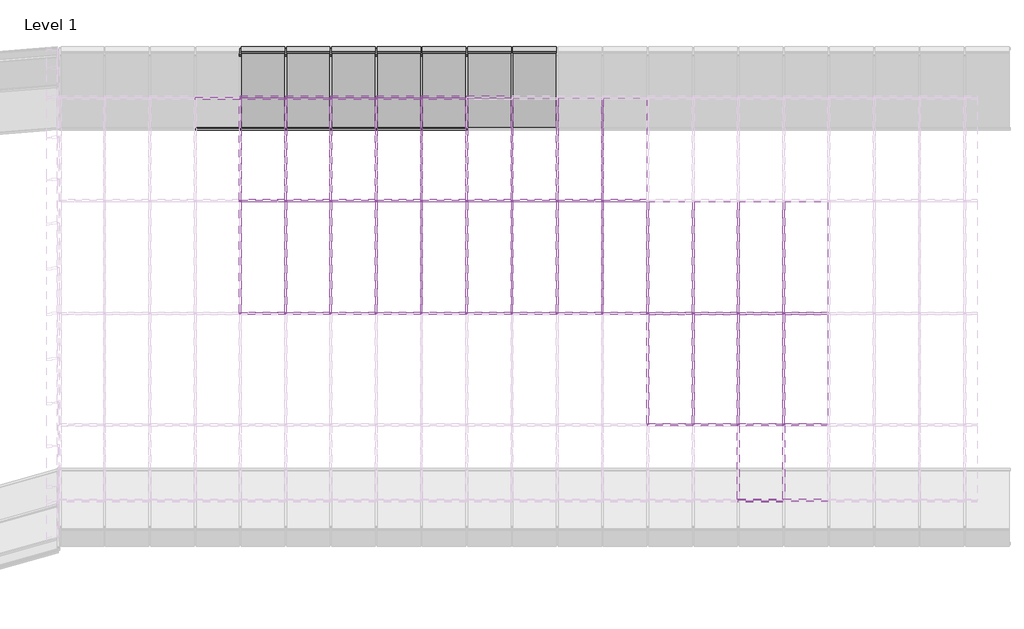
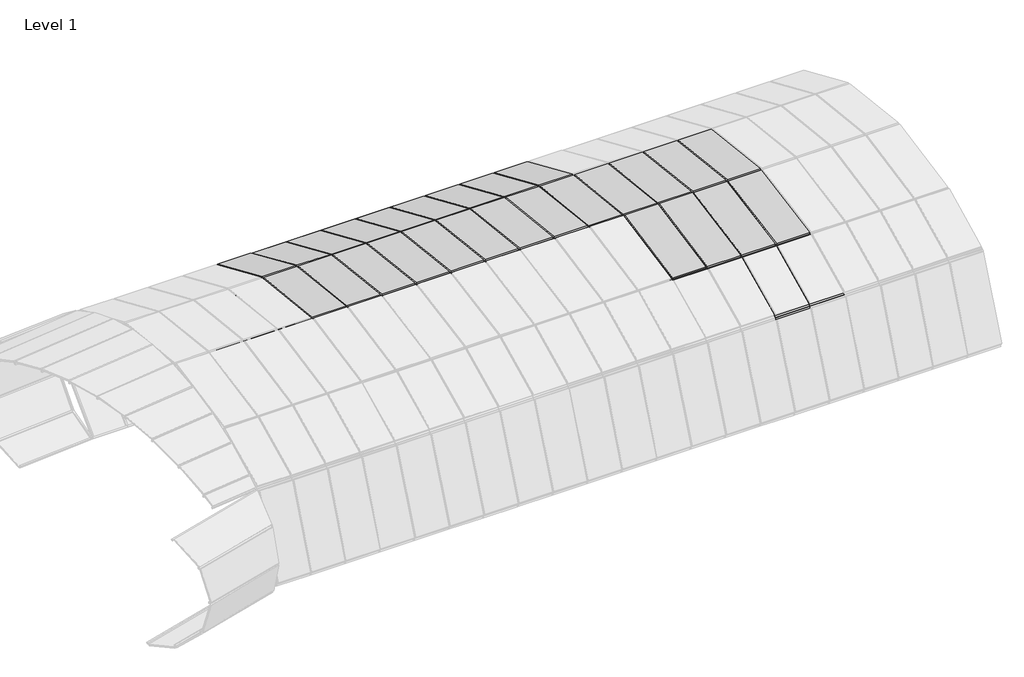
# One storey, part 19 of 23: 81 members, 40 plates.
"""IFC4 building model written with IfcOpenShell, lengths in millimetres."""

from ifc_helpers import new_model, si_unit, origin, place, context, project, spatial, transform, mapped, element, save
from components import member_68981e21, member_3e1f1dd8, member_14e241b9, member_67cfadff, member_309acb9e, member_0f8f75f6, system_panel_glazed_36155e08, system_panel_glazed_4484050c, system_panel_glazed_e96a6bf3

model = new_model("IFC4")

# Units and contexts
model_context = context("Model", 3, world=origin())
ifc_project = project(units=[si_unit("LENGTHUNIT", "METRE", prefix="MILLI")], contexts=[model_context])

# Site, building, storey
site = spatial("IfcSite", under=ifc_project)
building = spatial("IfcBuilding", under=site)
storey = spatial("IfcBuildingStorey", under=building, Name="Level 1", Elevation=0.0)

# Members
placement = place(None, origin())
member_shape = member_68981e21(model_context)
element("IfcMember", 1, ObjectType="Rectangular Mullion : 1\" Square", at=placement, inside=storey, context=model_context, shape_type="MappedRepresentation", body=[
    mapped(member_shape, transform((-768.9499814, 2108.5088854, 2085.6089632), x_axis=(0.0, -0.9009025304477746, -0.4340214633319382), y_axis=(0.0, -0.4340214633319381, 0.9009025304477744), z_axis=(-1.0, 0.0, 0.0))),
])
element("IfcMember", 2, ObjectType="Rectangular Mullion : 1\" Square", at=placement, inside=storey, context=model_context, shape_type="MappedRepresentation", body=[
    mapped(member_shape, transform((-159.3499814, 2108.5088854, 2085.6089632), x_axis=(0.0, -0.9009025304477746, -0.4340214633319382), y_axis=(0.0, -0.4340214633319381, 0.9009025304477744), z_axis=(-1.0, 0.0, 0.0))),
])
element("IfcMember", 3, ObjectType="Rectangular Mullion : 1\" Square", at=placement, inside=storey, context=model_context, shape_type="MappedRepresentation", body=[
    mapped(member_shape, transform((-7474.5499814, 7543.2525753, 2085.6089632), x_axis=(0.0, 0.9167487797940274, -0.39946423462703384), y_axis=(0.0, 0.39946423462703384, 0.9167487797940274), z_axis=(1.0, 0.0, 0.0))),
])
element("IfcMember", 4, ObjectType="Rectangular Mullion : 1\" Square", at=placement, inside=storey, context=model_context, shape_type="MappedRepresentation", body=[
    mapped(member_shape, transform((-6864.9499814, 7543.2525753, 2085.6089632), x_axis=(0.0, 0.9167487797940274, -0.39946423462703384), y_axis=(0.0, 0.39946423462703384, 0.9167487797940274), z_axis=(1.0, 0.0, 0.0))),
])
element("IfcMember", 5, ObjectType="Rectangular Mullion : 1\" Square", at=placement, inside=storey, context=model_context, shape_type="MappedRepresentation", body=[
    mapped(member_shape, transform((-6255.3499814, 7543.2525753, 2085.6089632), x_axis=(0.0, 0.9167487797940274, -0.39946423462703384), y_axis=(0.0, 0.39946423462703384, 0.9167487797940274), z_axis=(1.0, 0.0, 0.0))),
])
element("IfcMember", 6, ObjectType="Rectangular Mullion : 1\" Square", at=placement, inside=storey, context=model_context, shape_type="MappedRepresentation", body=[
    mapped(member_shape, transform((-5645.7499814, 7543.2525753, 2085.6089632), x_axis=(0.0, 0.9167487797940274, -0.39946423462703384), y_axis=(0.0, 0.39946423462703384, 0.9167487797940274), z_axis=(1.0, 0.0, 0.0))),
])
element("IfcMember", 7, ObjectType="Rectangular Mullion : 1\" Square", at=placement, inside=storey, context=model_context, shape_type="MappedRepresentation", body=[
    mapped(member_shape, transform((-5036.1499814, 7543.2525753, 2085.6089632), x_axis=(0.0, 0.9167487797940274, -0.39946423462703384), y_axis=(0.0, 0.39946423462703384, 0.9167487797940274), z_axis=(1.0, 0.0, 0.0))),
])
element("IfcMember", 8, ObjectType="Rectangular Mullion : 1\" Square", at=placement, inside=storey, context=model_context, shape_type="MappedRepresentation", body=[
    mapped(member_shape, transform((-4426.5499814, 7543.2525753, 2085.6089632), x_axis=(0.0, 0.9167487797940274, -0.39946423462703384), y_axis=(0.0, 0.39946423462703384, 0.9167487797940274), z_axis=(1.0, 0.0, 0.0))),
])
element("IfcMember", 9, ObjectType="Rectangular Mullion : 1\" Square", at=placement, inside=storey, context=model_context, shape_type="MappedRepresentation", body=[
    mapped(member_shape, transform((-7474.5499814, 7111.8807303, 0.0), x_axis=(0.0, -0.713412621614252, -0.7007441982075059), y_axis=(0.0, 0.7007441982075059, -0.713412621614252), z_axis=(1.0, 0.0, 0.0))),
])
element("IfcMember", 10, ObjectType="Rectangular Mullion : 1\" Square", at=placement, inside=storey, context=model_context, shape_type="MappedRepresentation", body=[
    mapped(member_shape, transform((-6864.9499814, 7111.8807303, 0.0), x_axis=(0.0, -0.713412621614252, -0.7007441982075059), y_axis=(0.0, 0.7007441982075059, -0.713412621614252), z_axis=(1.0, 0.0, 0.0))),
])
element("IfcMember", 11, ObjectType="Rectangular Mullion : 1\" Square", at=placement, inside=storey, context=model_context, shape_type="MappedRepresentation", body=[
    mapped(member_shape, transform((-6255.3499814, 7111.8807303, 0.0), x_axis=(0.0, -0.713412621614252, -0.7007441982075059), y_axis=(0.0, 0.7007441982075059, -0.713412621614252), z_axis=(1.0, 0.0, 0.0))),
])
element("IfcMember", 12, ObjectType="Rectangular Mullion : 1\" Square", at=placement, inside=storey, context=model_context, shape_type="MappedRepresentation", body=[
    mapped(member_shape, transform((-5645.7499814, 7111.8807303, 0.0), x_axis=(0.0, -0.713412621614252, -0.7007441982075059), y_axis=(0.0, 0.7007441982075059, -0.713412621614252), z_axis=(1.0, 0.0, 0.0))),
])
element("IfcMember", 13, ObjectType="Rectangular Mullion : 1\" Square", at=placement, inside=storey, context=model_context, shape_type="MappedRepresentation", body=[
    mapped(member_shape, transform((-5036.1499814, 7111.8807303, 0.0), x_axis=(0.0, -0.713412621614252, -0.7007441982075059), y_axis=(0.0, 0.7007441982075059, -0.713412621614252), z_axis=(1.0, 0.0, 0.0))),
])
element("IfcMember", 14, ObjectType="Rectangular Mullion : 1\" Square", at=placement, inside=storey, context=model_context, shape_type="MappedRepresentation", body=[
    mapped(member_shape, transform((-4426.5499814, 7111.8807303, 0.0), x_axis=(0.0, -0.713412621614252, -0.7007441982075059), y_axis=(0.0, 0.7007441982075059, -0.713412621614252), z_axis=(1.0, 0.0, 0.0))),
])
member_2_shape = member_3e1f1dd8(model_context)
element("IfcMember", 15, ObjectType="Rectangular Mullion : 1\" Square", at=placement, inside=storey, context=model_context, shape_type="MappedRepresentation", body=[
    mapped(member_2_shape, transform((-7474.5499814, 4631.6132499, 2864.1651971), x_axis=(0.0, -0.9992773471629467, -0.038010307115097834), y_axis=(0.0, -0.038010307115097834, 0.9992773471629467), z_axis=(-1.0, 0.0, 0.0))),
])
element("IfcMember", 16, ObjectType="Rectangular Mullion : 1\" Square", at=placement, inside=storey, context=model_context, shape_type="MappedRepresentation", body=[
    mapped(member_2_shape, transform((-6864.9499814, 4631.6132499, 2864.1651971), x_axis=(0.0, -0.9992773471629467, -0.038010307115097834), y_axis=(0.0, -0.038010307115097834, 0.9992773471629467), z_axis=(-1.0, 0.0, 0.0))),
])
element("IfcMember", 17, ObjectType="Rectangular Mullion : 1\" Square", at=placement, inside=storey, context=model_context, shape_type="MappedRepresentation", body=[
    mapped(member_2_shape, transform((-6255.3499814, 4631.6132499, 2864.1651971), x_axis=(0.0, -0.9992773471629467, -0.038010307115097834), y_axis=(0.0, -0.038010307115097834, 0.9992773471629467), z_axis=(-1.0, 0.0, 0.0))),
])
element("IfcMember", 18, ObjectType="Rectangular Mullion : 1\" Square", at=placement, inside=storey, context=model_context, shape_type="MappedRepresentation", body=[
    mapped(member_2_shape, transform((-5645.7499814, 4631.6132499, 2864.1651971), x_axis=(0.0, -0.9992773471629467, -0.038010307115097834), y_axis=(0.0, -0.038010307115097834, 0.9992773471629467), z_axis=(-1.0, 0.0, 0.0))),
])
element("IfcMember", 19, ObjectType="Rectangular Mullion : 1\" Square", at=placement, inside=storey, context=model_context, shape_type="MappedRepresentation", body=[
    mapped(member_2_shape, transform((-5036.1499814, 4631.6132499, 2864.1651971), x_axis=(0.0, -0.9992773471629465, -0.038010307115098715), y_axis=(0.0, -0.038010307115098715, 0.9992773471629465), z_axis=(-1.0, 0.0, 0.0))),
])
element("IfcMember", 20, ObjectType="Rectangular Mullion : 1\" Square", at=placement, inside=storey, context=model_context, shape_type="MappedRepresentation", body=[
    mapped(member_2_shape, transform((-4426.5499814, 4631.6132499, 2864.1651971), x_axis=(0.0, -0.9992773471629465, -0.038010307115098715), y_axis=(0.0, -0.038010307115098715, 0.9992773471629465), z_axis=(-1.0, 0.0, 0.0))),
])
element("IfcMember", 21, ObjectType="Rectangular Mullion : 1\" Square", at=placement, inside=storey, context=model_context, shape_type="MappedRepresentation", body=[
    mapped(member_2_shape, transform((-3816.9499814, 4631.6132499, 2864.1651971), x_axis=(0.0, -0.9992773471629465, -0.038010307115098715), y_axis=(0.0, -0.038010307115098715, 0.9992773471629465), z_axis=(-1.0, 0.0, 0.0))),
])
element("IfcMember", 22, ObjectType="Rectangular Mullion : 1\" Square", at=placement, inside=storey, context=model_context, shape_type="MappedRepresentation", body=[
    mapped(member_2_shape, transform((-3207.3499814, 4631.6132499, 2864.1651971), x_axis=(0.0, -0.9992773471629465, -0.038010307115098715), y_axis=(0.0, -0.038010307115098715, 0.9992773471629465), z_axis=(-1.0, 0.0, 0.0))),
])
element("IfcMember", 23, ObjectType="Rectangular Mullion : 1\" Square", at=placement, inside=storey, context=model_context, shape_type="MappedRepresentation", body=[
    mapped(member_2_shape, transform((-2597.7499814, 4631.6132499, 2864.1651971), x_axis=(0.0, -0.9992773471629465, -0.038010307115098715), y_axis=(0.0, -0.038010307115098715, 0.9992773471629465), z_axis=(-1.0, 0.0, 0.0))),
])
element("IfcMember", 24, ObjectType="Rectangular Mullion : 1\" Square", at=placement, inside=storey, context=model_context, shape_type="MappedRepresentation", body=[
    mapped(member_2_shape, transform((-1988.1499814, 4631.6132499, 2864.1651971), x_axis=(0.0, -0.9992773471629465, -0.038010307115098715), y_axis=(0.0, -0.038010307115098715, 0.9992773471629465), z_axis=(-1.0, 0.0, 0.0))),
])
element("IfcMember", 25, ObjectType="Rectangular Mullion : 1\" Square", at=placement, inside=storey, context=model_context, shape_type="MappedRepresentation", body=[
    mapped(member_2_shape, transform((-1378.5499814, 4631.6132499, 2864.1651971), x_axis=(0.0, -0.9992773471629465, -0.038010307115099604), y_axis=(0.0, -0.038010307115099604, 0.9992773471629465), z_axis=(-1.0, 0.0, 0.0))),
])
element("IfcMember", 26, ObjectType="Rectangular Mullion : 1\" Square", at=placement, inside=storey, context=model_context, shape_type="MappedRepresentation", body=[
    mapped(member_2_shape, transform((-768.9499814, 4631.6132499, 2864.1651971), x_axis=(0.0, -0.9992773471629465, -0.038010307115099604), y_axis=(0.0, -0.038010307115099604, 0.9992773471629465), z_axis=(-1.0, 0.0, 0.0))),
])
element("IfcMember", 27, ObjectType="Rectangular Mullion : 1\" Square", at=placement, inside=storey, context=model_context, shape_type="MappedRepresentation", body=[
    mapped(member_2_shape, transform((-159.3499814, 4631.6132499, 2864.1651971), x_axis=(0.0, -0.9992773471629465, -0.038010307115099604), y_axis=(0.0, -0.038010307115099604, 0.9992773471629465), z_axis=(-1.0, 0.0, 0.0))),
])
element("IfcMember", 28, ObjectType="Rectangular Mullion : 1\" Square", at=placement, inside=storey, context=model_context, shape_type="MappedRepresentation", body=[
    mapped(member_2_shape, transform((-1988.1499814, 3134.3722562, 2579.8319299), x_axis=(0.0, -0.9436447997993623, -0.3309599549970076), y_axis=(0.0, -0.3309599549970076, 0.9436447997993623), z_axis=(-1.0, 0.0, 0.0))),
])
element("IfcMember", 29, ObjectType="Rectangular Mullion : 1\" Square", at=placement, inside=storey, context=model_context, shape_type="MappedRepresentation", body=[
    mapped(member_2_shape, transform((-1378.5499814, 3134.3722562, 2579.8319299), x_axis=(0.0, -0.9436447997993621, -0.3309599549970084), y_axis=(0.0, -0.3309599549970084, 0.9436447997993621), z_axis=(-1.0, 0.0, 0.0))),
])
element("IfcMember", 30, ObjectType="Rectangular Mullion : 1\" Square", at=placement, inside=storey, context=model_context, shape_type="MappedRepresentation", body=[
    mapped(member_2_shape, transform((-768.9499814, 3134.3722562, 2579.8319299), x_axis=(0.0, -0.9436447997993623, -0.3309599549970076), y_axis=(0.0, -0.3309599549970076, 0.9436447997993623), z_axis=(-1.0, 0.0, 0.0))),
])
element("IfcMember", 31, ObjectType="Rectangular Mullion : 1\" Square", at=placement, inside=storey, context=model_context, shape_type="MappedRepresentation", body=[
    mapped(member_2_shape, transform((-159.3499814, 3134.3722562, 2579.8319299), x_axis=(0.0, -0.9436447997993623, -0.3309599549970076), y_axis=(0.0, -0.3309599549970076, 0.9436447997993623), z_axis=(-1.0, 0.0, 0.0))),
])
element("IfcMember", 32, ObjectType="Rectangular Mullion : 1\" Square", at=placement, inside=storey, context=model_context, shape_type="MappedRepresentation", body=[
    mapped(member_shape, transform((-159.3499814, 2108.5088854, 2085.6089632), x_axis=(0.0, 0.37689609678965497, 0.9262555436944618), y_axis=(0.0, -0.9262555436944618, 0.37689609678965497), z_axis=(1.0, 0.0, 0.0))),
])
element("IfcMember", 33, ObjectType="Rectangular Mullion : 1\" Square", at=placement, inside=storey, context=model_context, shape_type="MappedRepresentation", body=[
    mapped(member_shape, transform((-7474.5499814, 7543.2525753, 2085.6089632), x_axis=(0.0, -0.5417212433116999, 0.8405582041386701), y_axis=(0.0, 0.8405582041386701, 0.5417212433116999), z_axis=(-1.0, 0.0, 0.0))),
])
element("IfcMember", 34, ObjectType="Rectangular Mullion : 1\" Square", at=placement, inside=storey, context=model_context, shape_type="MappedRepresentation", body=[
    mapped(member_shape, transform((-6864.9499814, 7543.2525753, 2085.6089632), x_axis=(0.0, -0.5417212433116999, 0.8405582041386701), y_axis=(0.0, 0.8405582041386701, 0.5417212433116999), z_axis=(-1.0, 0.0, 0.0))),
])
element("IfcMember", 35, ObjectType="Rectangular Mullion : 1\" Square", at=placement, inside=storey, context=model_context, shape_type="MappedRepresentation", body=[
    mapped(member_shape, transform((-6255.3499814, 7543.2525753, 2085.6089632), x_axis=(0.0, -0.5417212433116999, 0.8405582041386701), y_axis=(0.0, 0.8405582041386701, 0.5417212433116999), z_axis=(-1.0, 0.0, 0.0))),
])
element("IfcMember", 36, ObjectType="Rectangular Mullion : 1\" Square", at=placement, inside=storey, context=model_context, shape_type="MappedRepresentation", body=[
    mapped(member_shape, transform((-5645.7499814, 7543.2525753, 2085.6089632), x_axis=(0.0, -0.5417212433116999, 0.8405582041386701), y_axis=(0.0, 0.8405582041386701, 0.5417212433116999), z_axis=(-1.0, 0.0, 0.0))),
])
element("IfcMember", 37, ObjectType="Rectangular Mullion : 1\" Square", at=placement, inside=storey, context=model_context, shape_type="MappedRepresentation", body=[
    mapped(member_shape, transform((-5036.1499814, 7543.2525753, 2085.6089632), x_axis=(0.0, -0.5417212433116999, 0.8405582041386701), y_axis=(0.0, 0.8405582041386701, 0.5417212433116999), z_axis=(-1.0, 0.0, 0.0))),
])
element("IfcMember", 38, ObjectType="Rectangular Mullion : 1\" Square", at=placement, inside=storey, context=model_context, shape_type="MappedRepresentation", body=[
    mapped(member_shape, transform((-4426.5499814, 7543.2525753, 2085.6089632), x_axis=(0.0, -0.5417212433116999, 0.8405582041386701), y_axis=(0.0, 0.8405582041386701, 0.5417212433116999), z_axis=(-1.0, 0.0, 0.0))),
])
element("IfcMember", 39, ObjectType="Rectangular Mullion : 1\" Square", at=placement, inside=storey, context=model_context, shape_type="MappedRepresentation", body=[
    mapped(member_2_shape, transform((-7474.5499814, 6146.1274349, 2694.3924567), x_axis=(0.0, -0.9660596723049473, 0.25831900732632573), y_axis=(0.0, 0.2583190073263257, 0.966059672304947), z_axis=(-1.0, 0.0, 0.0))),
])
element("IfcMember", 40, ObjectType="Rectangular Mullion : 1\" Square", at=placement, inside=storey, context=model_context, shape_type="MappedRepresentation", body=[
    mapped(member_2_shape, transform((-6864.9499814, 6146.1274349, 2694.3924567), x_axis=(0.0, -0.9660596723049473, 0.25831900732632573), y_axis=(0.0, 0.2583190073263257, 0.966059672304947), z_axis=(-1.0, 0.0, 0.0))),
])
element("IfcMember", 41, ObjectType="Rectangular Mullion : 1\" Square", at=placement, inside=storey, context=model_context, shape_type="MappedRepresentation", body=[
    mapped(member_2_shape, transform((-6255.3499814, 6146.1274349, 2694.3924567), x_axis=(0.0, -0.9660596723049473, 0.25831900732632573), y_axis=(0.0, 0.2583190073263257, 0.966059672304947), z_axis=(-1.0, 0.0, 0.0))),
])
element("IfcMember", 42, ObjectType="Rectangular Mullion : 1\" Square", at=placement, inside=storey, context=model_context, shape_type="MappedRepresentation", body=[
    mapped(member_2_shape, transform((-5645.7499814, 6146.1274349, 2694.3924567), x_axis=(0.0, -0.9660596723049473, 0.25831900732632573), y_axis=(0.0, 0.2583190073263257, 0.966059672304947), z_axis=(-1.0, 0.0, 0.0))),
])
element("IfcMember", 43, ObjectType="Rectangular Mullion : 1\" Square", at=placement, inside=storey, context=model_context, shape_type="MappedRepresentation", body=[
    mapped(member_2_shape, transform((-5036.1499814, 6146.1274349, 2694.3924567), x_axis=(0.0, -0.9660596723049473, 0.25831900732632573), y_axis=(0.0, 0.2583190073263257, 0.966059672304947), z_axis=(-1.0, 0.0, 0.0))),
])
element("IfcMember", 44, ObjectType="Rectangular Mullion : 1\" Square", at=placement, inside=storey, context=model_context, shape_type="MappedRepresentation", body=[
    mapped(member_2_shape, transform((-4426.5499814, 6146.1274349, 2694.3924567), x_axis=(0.0, -0.9660596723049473, 0.25831900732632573), y_axis=(0.0, 0.2583190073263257, 0.966059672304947), z_axis=(-1.0, 0.0, 0.0))),
])
element("IfcMember", 45, ObjectType="Rectangular Mullion : 1\" Square", at=placement, inside=storey, context=model_context, shape_type="MappedRepresentation", body=[
    mapped(member_2_shape, transform((-3816.9499814, 6146.1274349, 2694.3924567), x_axis=(0.0, -0.9660596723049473, 0.25831900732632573), y_axis=(0.0, 0.2583190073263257, 0.966059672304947), z_axis=(-1.0, 0.0, 0.0))),
])
element("IfcMember", 46, ObjectType="Rectangular Mullion : 1\" Square", at=placement, inside=storey, context=model_context, shape_type="MappedRepresentation", body=[
    mapped(member_2_shape, transform((-3207.3499814, 6146.1274349, 2694.3924567), x_axis=(0.0, -0.9660596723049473, 0.25831900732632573), y_axis=(0.0, 0.2583190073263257, 0.966059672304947), z_axis=(-1.0, 0.0, 0.0))),
])
element("IfcMember", 47, ObjectType="Rectangular Mullion : 1\" Square", at=placement, inside=storey, context=model_context, shape_type="MappedRepresentation", body=[
    mapped(member_2_shape, transform((-2597.7499814, 6146.1274349, 2694.3924567), x_axis=(0.0, -0.9660596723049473, 0.25831900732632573), y_axis=(0.0, 0.2583190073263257, 0.966059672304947), z_axis=(-1.0, 0.0, 0.0))),
])
member_3_shape = member_14e241b9(model_context)
element("IfcMember", 48, ObjectType="Rectangular Mullion : 1\" Square", at=placement, inside=storey, context=model_context, shape_type="MappedRepresentation", body=[
    mapped(member_3_shape, transform((-768.9499814, 2131.3918096, 2096.6331083), x_axis=(1.0, 0.0, 0.0), y_axis=(0.0, -0.4340214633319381, 0.9009025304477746), z_axis=(0.0, -0.9009025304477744, -0.434021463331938))),
])
element("IfcMember", 49, ObjectType="Rectangular Mullion : 1\" Square", at=placement, inside=storey, context=model_context, shape_type="MappedRepresentation", body=[
    mapped(member_3_shape, transform((-159.3499814, 2131.3918096, 2096.6331083), x_axis=(1.0, 0.0, 0.0), y_axis=(0.0, -0.4340214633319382, 0.9009025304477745), z_axis=(0.0, -0.9009025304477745, -0.4340214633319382))),
])
member_4_shape = member_67cfadff(model_context)
element("IfcMember", 50, ObjectType="Rectangular Mullion : 1\" Square", at=placement, inside=storey, context=model_context, shape_type="MappedRepresentation", body=[
    mapped(member_4_shape, transform((-5036.1499814, 6157.7701444, 2689.3192609), x_axis=(0.9999999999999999, 0.0, 0.0), y_axis=(0.0, 0.3994642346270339, 0.9167487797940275), z_axis=(0.0, -0.9167487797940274, 0.39946423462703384))),
])
element("IfcMember", 51, ObjectType="Rectangular Mullion : 1\" Square", at=placement, inside=storey, context=model_context, shape_type="MappedRepresentation", body=[
    mapped(member_4_shape, transform((-4426.5499814, 6157.7701444, 2689.3192609), x_axis=(0.9999999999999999, 0.0, 0.0), y_axis=(0.0, 0.3994642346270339, 0.9167487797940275), z_axis=(0.0, -0.9167487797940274, 0.39946423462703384))),
])
element("IfcMember", 52, ObjectType="Rectangular Mullion : 1\" Square", at=placement, inside=storey, context=model_context, shape_type="MappedRepresentation", body=[
    mapped(member_4_shape, transform((-3816.9499814, 6157.7701444, 2689.3192609), x_axis=(0.9999999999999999, 0.0, 0.0), y_axis=(0.0, 0.3994642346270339, 0.9167487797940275), z_axis=(0.0, -0.9167487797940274, 0.39946423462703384))),
])
element("IfcMember", 53, ObjectType="Rectangular Mullion : 1\" Square", at=placement, inside=storey, context=model_context, shape_type="MappedRepresentation", body=[
    mapped(member_4_shape, transform((-3207.3499814, 6157.7701444, 2689.3192609), x_axis=(0.9999999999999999, 0.0, 0.0), y_axis=(0.0, 0.3994642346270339, 0.9167487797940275), z_axis=(0.0, -0.9167487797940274, 0.39946423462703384))),
])
element("IfcMember", 54, ObjectType="Rectangular Mullion : 1\" Square", at=placement, inside=storey, context=model_context, shape_type="MappedRepresentation", body=[
    mapped(member_4_shape, transform((-2597.7499814, 6157.7701444, 2689.3192609), x_axis=(0.9999999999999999, 0.0, 0.0), y_axis=(0.0, 0.3994642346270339, 0.9167487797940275), z_axis=(0.0, -0.9167487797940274, 0.39946423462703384))),
])
element("IfcMember", 55, ObjectType="Rectangular Mullion : 1\" Square", at=placement, inside=storey, context=model_context, shape_type="MappedRepresentation", body=[
    mapped(member_4_shape, transform((-6864.9499814, 6157.7701444, 2689.3192609), x_axis=(0.9999999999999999, 0.0, 0.0), y_axis=(0.0, 0.3994642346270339, 0.9167487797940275), z_axis=(0.0, -0.9167487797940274, 0.39946423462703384))),
])
element("IfcMember", 56, ObjectType="Rectangular Mullion : 1\" Square", at=placement, inside=storey, context=model_context, shape_type="MappedRepresentation", body=[
    mapped(member_4_shape, transform((-6255.3499814, 6157.7701444, 2689.3192609), x_axis=(0.9999999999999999, 0.0, 0.0), y_axis=(0.0, 0.3994642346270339, 0.9167487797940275), z_axis=(0.0, -0.9167487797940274, 0.39946423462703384))),
])
element("IfcMember", 57, ObjectType="Rectangular Mullion : 1\" Square", at=placement, inside=storey, context=model_context, shape_type="MappedRepresentation", body=[
    mapped(member_4_shape, transform((-5645.7499814, 6157.7701444, 2689.3192609), x_axis=(0.9999999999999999, 0.0, 0.0), y_axis=(0.0, 0.3994642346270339, 0.9167487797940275), z_axis=(0.0, -0.9167487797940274, 0.39946423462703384))),
])
element("IfcMember", 58, ObjectType="Rectangular Mullion : 1\" Square", at=placement, inside=storey, context=model_context, shape_type="MappedRepresentation", body=[
    mapped(member_4_shape, transform((-7474.5499814, 6157.7701444, 2689.3192609), x_axis=(0.9999999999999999, 0.0, 0.0), y_axis=(0.0, 0.3994642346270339, 0.9167487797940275), z_axis=(0.0, -0.9167487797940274, 0.39946423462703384))),
])
member_5_shape = member_309acb9e(model_context)
element("IfcMember", 59, ObjectType="Rectangular Mullion : 1\" Square", at=placement, inside=storey, context=model_context, shape_type="MappedRepresentation", body=[
    mapped(member_5_shape, transform((-1988.1499814, 4644.2342014, 2862.7504243), x_axis=(1.0, 0.0, 0.0), y_axis=(0.0, 0.11139943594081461, 0.993775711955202), z_axis=(0.0, -0.9937757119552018, 0.11139943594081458))),
])
element("IfcMember", 60, ObjectType="Rectangular Mullion : 1\" Square", at=placement, inside=storey, context=model_context, shape_type="MappedRepresentation", body=[
    mapped(member_5_shape, transform((-1378.5499814, 4644.2342014, 2862.7504243), x_axis=(1.0, 0.0, 0.0), y_axis=(0.0, 0.11139943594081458, 0.9937757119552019), z_axis=(0.0, -0.9937757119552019, 0.11139943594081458))),
])
element("IfcMember", 61, ObjectType="Rectangular Mullion : 1\" Square", at=placement, inside=storey, context=model_context, shape_type="MappedRepresentation", body=[
    mapped(member_5_shape, transform((-768.9499814, 4644.2342014, 2862.7504243), x_axis=(1.0, 0.0, 0.0), y_axis=(0.0, 0.11139943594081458, 0.9937757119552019), z_axis=(0.0, -0.9937757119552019, 0.11139943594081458))),
])
element("IfcMember", 62, ObjectType="Rectangular Mullion : 1\" Square", at=placement, inside=storey, context=model_context, shape_type="MappedRepresentation", body=[
    mapped(member_5_shape, transform((-5645.7499814, 4644.2342014, 2862.7504243), x_axis=(0.9999999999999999, 0.0, 0.0), y_axis=(0.0, 0.1113994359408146, 0.9937757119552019), z_axis=(0.0, -0.9937757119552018, 0.11139943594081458))),
])
element("IfcMember", 63, ObjectType="Rectangular Mullion : 1\" Square", at=placement, inside=storey, context=model_context, shape_type="MappedRepresentation", body=[
    mapped(member_5_shape, transform((-5036.1499814, 4644.2342014, 2862.7504243), x_axis=(1.0, 0.0, 0.0), y_axis=(0.0, 0.11139943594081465, 0.993775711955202), z_axis=(0.0, -0.9937757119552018, 0.11139943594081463))),
])
element("IfcMember", 64, ObjectType="Rectangular Mullion : 1\" Square", at=placement, inside=storey, context=model_context, shape_type="MappedRepresentation", body=[
    mapped(member_5_shape, transform((-4426.5499814, 4644.2342014, 2862.7504243), x_axis=(1.0, 0.0, 0.0), y_axis=(0.0, 0.11139943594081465, 0.993775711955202), z_axis=(0.0, -0.9937757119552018, 0.11139943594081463))),
])
element("IfcMember", 65, ObjectType="Rectangular Mullion : 1\" Square", at=placement, inside=storey, context=model_context, shape_type="MappedRepresentation", body=[
    mapped(member_5_shape, transform((-3816.9499814, 4644.2342014, 2862.7504243), x_axis=(1.0, 0.0, 0.0), y_axis=(0.0, 0.11139943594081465, 0.993775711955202), z_axis=(0.0, -0.9937757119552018, 0.11139943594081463))),
])
element("IfcMember", 66, ObjectType="Rectangular Mullion : 1\" Square", at=placement, inside=storey, context=model_context, shape_type="MappedRepresentation", body=[
    mapped(member_5_shape, transform((-3207.3499814, 4644.2342014, 2862.7504243), x_axis=(1.0, 0.0, 0.0), y_axis=(0.0, 0.11139943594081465, 0.993775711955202), z_axis=(0.0, -0.9937757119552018, 0.11139943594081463))),
])
element("IfcMember", 67, ObjectType="Rectangular Mullion : 1\" Square", at=placement, inside=storey, context=model_context, shape_type="MappedRepresentation", body=[
    mapped(member_5_shape, transform((-2597.7499814, 4644.2342014, 2862.7504243), x_axis=(1.0, 0.0, 0.0), y_axis=(0.0, 0.11139943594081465, 0.993775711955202), z_axis=(0.0, -0.9937757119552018, 0.11139943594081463))),
])
element("IfcMember", 68, ObjectType="Rectangular Mullion : 1\" Square", at=placement, inside=storey, context=model_context, shape_type="MappedRepresentation", body=[
    mapped(member_5_shape, transform((-159.3499814, 4644.2342014, 2862.7504243), x_axis=(1.0, 0.0, 0.0), y_axis=(0.0, 0.11139943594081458, 0.9937757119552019), z_axis=(0.0, -0.9937757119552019, 0.11139943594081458))),
])
element("IfcMember", 69, ObjectType="Rectangular Mullion : 1\" Square", at=placement, inside=storey, context=model_context, shape_type="MappedRepresentation", body=[
    mapped(member_5_shape, transform((-6864.9499814, 4644.2342014, 2862.7504243), x_axis=(0.9999999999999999, 0.0, 0.0), y_axis=(0.0, 0.1113994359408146, 0.9937757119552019), z_axis=(0.0, -0.9937757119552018, 0.11139943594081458))),
])
element("IfcMember", 70, ObjectType="Rectangular Mullion : 1\" Square", at=placement, inside=storey, context=model_context, shape_type="MappedRepresentation", body=[
    mapped(member_5_shape, transform((-6255.3499814, 4644.2342014, 2862.7504243), x_axis=(0.9999999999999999, 0.0, 0.0), y_axis=(0.0, 0.1113994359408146, 0.9937757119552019), z_axis=(0.0, -0.9937757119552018, 0.11139943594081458))),
])
element("IfcMember", 71, ObjectType="Rectangular Mullion : 1\" Square", at=placement, inside=storey, context=model_context, shape_type="MappedRepresentation", body=[
    mapped(member_5_shape, transform((-7474.5499814, 4644.2342014, 2862.7504243), x_axis=(0.9999999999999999, 0.0, 0.0), y_axis=(0.0, 0.1113994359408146, 0.9937757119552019), z_axis=(0.0, -0.9937757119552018, 0.11139943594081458))),
])
element("IfcMember", 72, ObjectType="Rectangular Mullion : 1\" Square", at=placement, inside=storey, context=model_context, shape_type="MappedRepresentation", body=[
    mapped(member_5_shape, transform((-1988.1499814, 3146.8492645, 2582.2013738), x_axis=(0.9999999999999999, 0.0, 0.0), y_axis=(0.0, -0.18657038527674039, 0.9824415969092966), z_axis=(0.0, -0.9824415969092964, -0.18657038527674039))),
])
element("IfcMember", 73, ObjectType="Rectangular Mullion : 1\" Square", at=placement, inside=storey, context=model_context, shape_type="MappedRepresentation", body=[
    mapped(member_5_shape, transform((-1378.5499814, 3146.8492645, 2582.2013738), x_axis=(0.9999999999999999, 0.0, 0.0), y_axis=(0.0, -0.18657038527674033, 0.9824415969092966), z_axis=(0.0, -0.9824415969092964, -0.18657038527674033))),
])
element("IfcMember", 74, ObjectType="Rectangular Mullion : 1\" Square", at=placement, inside=storey, context=model_context, shape_type="MappedRepresentation", body=[
    mapped(member_5_shape, transform((-768.9499814, 3146.8492645, 2582.2013738), x_axis=(0.9999999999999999, 0.0, 0.0), y_axis=(0.0, -0.18657038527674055, 0.9824415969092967), z_axis=(0.0, -0.9824415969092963, -0.1865703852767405))),
])
element("IfcMember", 75, ObjectType="Rectangular Mullion : 1\" Square", at=placement, inside=storey, context=model_context, shape_type="MappedRepresentation", body=[
    mapped(member_5_shape, transform((-159.3499814, 3146.8492645, 2582.2013738), x_axis=(0.9999999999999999, 0.0, 0.0), y_axis=(0.0, -0.18657038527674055, 0.9824415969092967), z_axis=(0.0, -0.9824415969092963, -0.1865703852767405))),
])
member_6_shape = member_0f8f75f6(model_context)
element("IfcMember", 76, ObjectType="Rectangular Mullion : 1\" Square", at=placement, inside=storey, context=model_context, shape_type="MappedRepresentation", body=[
    mapped(member_6_shape, transform((-6255.3499814, 7557.0122949, 2064.2587848), x_axis=(0.9999999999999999, 0.0, 0.0), y_axis=(0.0, 0.8405582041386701, 0.5417212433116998), z_axis=(0.0, -0.5417212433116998, 0.84055820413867))),
])
element("IfcMember", 77, ObjectType="Rectangular Mullion : 1\" Square", at=placement, inside=storey, context=model_context, shape_type="MappedRepresentation", body=[
    mapped(member_6_shape, transform((-6864.9499814, 7557.0122949, 2064.2587848), x_axis=(1.0, 0.0, 0.0), y_axis=(0.0, 0.8405582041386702, 0.5417212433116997), z_axis=(0.0, -0.5417212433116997, 0.8405582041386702))),
])
element("IfcMember", 78, ObjectType="Rectangular Mullion : 1\" Square", at=placement, inside=storey, context=model_context, shape_type="MappedRepresentation", body=[
    mapped(member_6_shape, transform((-7474.5499814, 7557.0122949, 2064.2587848), x_axis=(1.0, 0.0, 0.0), y_axis=(0.0, 0.8405582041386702, 0.5417212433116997), z_axis=(0.0, -0.5417212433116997, 0.8405582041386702))),
])
element("IfcMember", 79, ObjectType="Rectangular Mullion : 1\" Square", at=placement, inside=storey, context=model_context, shape_type="MappedRepresentation", body=[
    mapped(member_6_shape, transform((-4426.5499814, 7557.0122949, 2064.2587848), x_axis=(1.0, 0.0, 0.0), y_axis=(0.0, 0.8405582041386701, 0.5417212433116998), z_axis=(0.0, -0.5417212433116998, 0.8405582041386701))),
])
element("IfcMember", 80, ObjectType="Rectangular Mullion : 1\" Square", at=placement, inside=storey, context=model_context, shape_type="MappedRepresentation", body=[
    mapped(member_6_shape, transform((-5036.1499814, 7557.0122949, 2064.2587848), x_axis=(1.0, 0.0, 0.0), y_axis=(0.0, 0.8405582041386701, 0.5417212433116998), z_axis=(0.0, -0.5417212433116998, 0.8405582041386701))),
])
element("IfcMember", 81, ObjectType="Rectangular Mullion : 1\" Square", at=placement, inside=storey, context=model_context, shape_type="MappedRepresentation", body=[
    mapped(member_6_shape, transform((-5645.7499814, 7557.0122949, 2064.2587848), x_axis=(1.0, 0.0, 0.0), y_axis=(0.0, 0.8405582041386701, 0.5417212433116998), z_axis=(0.0, -0.5417212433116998, 0.8405582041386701))),
])

# Plates
system_panel_glazed_shape = system_panel_glazed_36155e08(model_context)
element("IfcPlate", 82, ObjectType="System Panel : Glazed", at=placement, inside=storey, context=model_context, shape_type="MappedRepresentation", body=[
    mapped(system_panel_glazed_shape, transform((-7461.8499814, 6838.8686503, 2392.5373078), x_axis=(0.0, -0.9167487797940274, 0.39946423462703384), y_axis=(0.0, -0.39946423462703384, -0.9167487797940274), z_axis=(1.0, 0.0, 0.0))),
])
element("IfcPlate", 83, ObjectType="System Panel : Glazed", at=placement, inside=storey, context=model_context, shape_type="MappedRepresentation", body=[
    mapped(system_panel_glazed_shape, transform((-6852.2499814, 6838.8686503, 2392.5373078), x_axis=(0.0, -0.9167487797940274, 0.39946423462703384), y_axis=(0.0, -0.39946423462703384, -0.9167487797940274), z_axis=(1.0, 0.0, 0.0))),
])
element("IfcPlate", 84, ObjectType="System Panel : Glazed", at=placement, inside=storey, context=model_context, shape_type="MappedRepresentation", body=[
    mapped(system_panel_glazed_shape, transform((-6242.6499814, 6838.8686503, 2392.5373078), x_axis=(0.0, -0.9167487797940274, 0.39946423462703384), y_axis=(0.0, -0.39946423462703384, -0.9167487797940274), z_axis=(1.0, 0.0, 0.0))),
])
element("IfcPlate", 85, ObjectType="System Panel : Glazed", at=placement, inside=storey, context=model_context, shape_type="MappedRepresentation", body=[
    mapped(system_panel_glazed_shape, transform((-5633.0499814, 6838.8686503, 2392.5373078), x_axis=(0.0, -0.9167487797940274, 0.39946423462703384), y_axis=(0.0, -0.39946423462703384, -0.9167487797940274), z_axis=(1.0, 0.0, 0.0))),
])
element("IfcPlate", 86, ObjectType="System Panel : Glazed", at=placement, inside=storey, context=model_context, shape_type="MappedRepresentation", body=[
    mapped(system_panel_glazed_shape, transform((-5023.4499814, 6838.8686503, 2392.5373078), x_axis=(0.0, -0.9167487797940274, 0.39946423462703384), y_axis=(0.0, -0.39946423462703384, -0.9167487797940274), z_axis=(1.0, 0.0, 0.0))),
])
element("IfcPlate", 87, ObjectType="System Panel : Glazed", at=placement, inside=storey, context=model_context, shape_type="MappedRepresentation", body=[
    mapped(system_panel_glazed_shape, transform((-4413.8499814, 6838.8686503, 2392.5373078), x_axis=(0.0, -0.9167487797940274, 0.3994642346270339), y_axis=(0.0, -0.3994642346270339, -0.9167487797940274), z_axis=(1.0, 0.0, 0.0))),
])
element("IfcPlate", 88, ObjectType="System Panel : Glazed", at=placement, inside=storey, context=model_context, shape_type="MappedRepresentation", body=[
    mapped(system_panel_glazed_shape, transform((-3804.2499814, 6838.8686503, 2392.5373078), x_axis=(0.0, -0.9167487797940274, 0.39946423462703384), y_axis=(0.0, -0.39946423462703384, -0.9167487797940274), z_axis=(1.0, 0.0, 0.0))),
])
element("IfcPlate", 89, ObjectType="System Panel : Glazed", at=placement, inside=storey, context=model_context, shape_type="MappedRepresentation", body=[
    mapped(system_panel_glazed_shape, transform((-3194.6499814, 6838.8686503, 2392.5373078), x_axis=(0.0, -0.9167487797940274, 0.39946423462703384), y_axis=(0.0, -0.39946423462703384, -0.9167487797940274), z_axis=(1.0, 0.0, 0.0))),
])
element("IfcPlate", 90, ObjectType="System Panel : Glazed", at=placement, inside=storey, context=model_context, shape_type="MappedRepresentation", body=[
    mapped(system_panel_glazed_shape, transform((-2585.0499814, 6838.8686503, 2392.5373078), x_axis=(0.0, -0.9167487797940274, 0.39946423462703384), y_axis=(0.0, -0.39946423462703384, -0.9167487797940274), z_axis=(1.0, 0.0, 0.0))),
])
element("IfcPlate", 91, ObjectType="System Panel : Glazed", at=placement, inside=storey, context=model_context, shape_type="MappedRepresentation", body=[
    mapped(system_panel_glazed_shape, transform((-7461.8499814, 7660.0313181, 538.4168047), x_axis=(0.0, 0.713412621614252, 0.7007441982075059), y_axis=(0.0, -0.7007441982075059, 0.713412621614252), z_axis=(1.0, 0.0, 0.0))),
])
element("IfcPlate", 92, ObjectType="System Panel : Glazed", at=placement, inside=storey, context=model_context, shape_type="MappedRepresentation", body=[
    mapped(system_panel_glazed_shape, transform((-6852.2499814, 7660.0313181, 538.4168047), x_axis=(0.0, 0.713412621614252, 0.7007441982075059), y_axis=(0.0, -0.7007441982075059, 0.713412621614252), z_axis=(1.0, 0.0, 0.0))),
])
element("IfcPlate", 93, ObjectType="System Panel : Glazed", at=placement, inside=storey, context=model_context, shape_type="MappedRepresentation", body=[
    mapped(system_panel_glazed_shape, transform((-6242.6499814, 7660.0313181, 538.4168047), x_axis=(0.0, 0.713412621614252, 0.7007441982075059), y_axis=(0.0, -0.7007441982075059, 0.713412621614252), z_axis=(1.0, 0.0, 0.0))),
])
element("IfcPlate", 94, ObjectType="System Panel : Glazed", at=placement, inside=storey, context=model_context, shape_type="MappedRepresentation", body=[
    mapped(system_panel_glazed_shape, transform((-5633.0499814, 7660.0313181, 538.4168047), x_axis=(0.0, 0.713412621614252, 0.7007441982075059), y_axis=(0.0, -0.7007441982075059, 0.713412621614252), z_axis=(1.0, 0.0, 0.0))),
])
element("IfcPlate", 95, ObjectType="System Panel : Glazed", at=placement, inside=storey, context=model_context, shape_type="MappedRepresentation", body=[
    mapped(system_panel_glazed_shape, transform((-5023.4499814, 7660.0313181, 538.4168047), x_axis=(0.0, 0.713412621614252, 0.7007441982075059), y_axis=(0.0, -0.7007441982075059, 0.713412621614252), z_axis=(1.0, 0.0, 0.0))),
])
element("IfcPlate", 96, ObjectType="System Panel : Glazed", at=placement, inside=storey, context=model_context, shape_type="MappedRepresentation", body=[
    mapped(system_panel_glazed_shape, transform((-4413.8499814, 7660.0313181, 538.4168047), x_axis=(0.0, 0.7134126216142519, 0.700744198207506), y_axis=(0.0, -0.700744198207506, 0.7134126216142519), z_axis=(1.0, 0.0, 0.0))),
])
element("IfcPlate", 97, ObjectType="System Panel : Glazed", at=placement, inside=storey, context=model_context, shape_type="MappedRepresentation", body=[
    mapped(system_panel_glazed_shape, transform((-3804.2499814, 7660.0313181, 538.4168047), x_axis=(0.0, 0.713412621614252, 0.7007441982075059), y_axis=(0.0, -0.7007441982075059, 0.713412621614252), z_axis=(1.0, 0.0, 0.0))),
])
system_panel_glazed_2_shape = system_panel_glazed_4484050c(model_context)
element("IfcPlate", 98, ObjectType="System Panel : Glazed", at=placement, inside=storey, context=model_context, shape_type="MappedRepresentation", body=[
    mapped(system_panel_glazed_2_shape, transform((-7461.8499814, 7874.6270004, 1571.434016), x_axis=(0.0, -0.5417212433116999, 0.8405582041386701), y_axis=(0.0, -0.8405582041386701, -0.5417212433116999), z_axis=(1.0, 0.0, 0.0))),
])
element("IfcPlate", 99, ObjectType="System Panel : Glazed", at=placement, inside=storey, context=model_context, shape_type="MappedRepresentation", body=[
    mapped(system_panel_glazed_2_shape, transform((-6852.2499814, 7874.6270004, 1571.434016), x_axis=(0.0, -0.5417212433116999, 0.8405582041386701), y_axis=(0.0, -0.8405582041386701, -0.5417212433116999), z_axis=(1.0, 0.0, 0.0))),
])
element("IfcPlate", 100, ObjectType="System Panel : Glazed", at=placement, inside=storey, context=model_context, shape_type="MappedRepresentation", body=[
    mapped(system_panel_glazed_2_shape, transform((-6242.6499814, 7874.6270004, 1571.434016), x_axis=(0.0, -0.5417212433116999, 0.8405582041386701), y_axis=(0.0, -0.8405582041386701, -0.5417212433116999), z_axis=(1.0, 0.0, 0.0))),
])
element("IfcPlate", 101, ObjectType="System Panel : Glazed", at=placement, inside=storey, context=model_context, shape_type="MappedRepresentation", body=[
    mapped(system_panel_glazed_2_shape, transform((-5633.0499814, 7874.6270004, 1571.434016), x_axis=(0.0, -0.5417212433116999, 0.8405582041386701), y_axis=(0.0, -0.8405582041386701, -0.5417212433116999), z_axis=(1.0, 0.0, 0.0))),
])
element("IfcPlate", 102, ObjectType="System Panel : Glazed", at=placement, inside=storey, context=model_context, shape_type="MappedRepresentation", body=[
    mapped(system_panel_glazed_2_shape, transform((-5023.4499814, 7874.6270004, 1571.434016), x_axis=(0.0, -0.5417212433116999, 0.8405582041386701), y_axis=(0.0, -0.8405582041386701, -0.5417212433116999), z_axis=(1.0, 0.0, 0.0))),
])
element("IfcPlate", 103, ObjectType="System Panel : Glazed", at=placement, inside=storey, context=model_context, shape_type="MappedRepresentation", body=[
    mapped(system_panel_glazed_2_shape, transform((-4413.8499814, 7874.6270004, 1571.434016), x_axis=(0.0, -0.5417212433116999, 0.8405582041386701), y_axis=(0.0, -0.8405582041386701, -0.5417212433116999), z_axis=(1.0, 0.0, 0.0))),
])
element("IfcPlate", 104, ObjectType="System Panel : Glazed", at=placement, inside=storey, context=model_context, shape_type="MappedRepresentation", body=[
    mapped(system_panel_glazed_2_shape, transform((-3804.2499814, 7874.6270004, 1571.434016), x_axis=(0.0, -0.5417212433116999, 0.8405582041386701), y_axis=(0.0, -0.8405582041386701, -0.5417212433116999), z_axis=(1.0, 0.0, 0.0))),
])
system_panel_glazed_3_shape = system_panel_glazed_e96a6bf3(model_context)
element("IfcPlate", 105, ObjectType="System Panel : Glazed", at=placement, inside=storey, context=model_context, shape_type="MappedRepresentation", body=[
    mapped(system_panel_glazed_3_shape, transform((-7461.8499814, 5388.8703424, 2779.2788269), x_axis=(0.0, -0.993775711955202, 0.11139943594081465), y_axis=(0.0, -0.11139943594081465, -0.993775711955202), z_axis=(1.0, 0.0, 0.0))),
])
element("IfcPlate", 106, ObjectType="System Panel : Glazed", at=placement, inside=storey, context=model_context, shape_type="MappedRepresentation", body=[
    mapped(system_panel_glazed_3_shape, transform((-6852.2499814, 5388.8703424, 2779.2788269), x_axis=(0.0, -0.993775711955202, 0.11139943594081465), y_axis=(0.0, -0.11139943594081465, -0.993775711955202), z_axis=(1.0, 0.0, 0.0))),
])
element("IfcPlate", 107, ObjectType="System Panel : Glazed", at=placement, inside=storey, context=model_context, shape_type="MappedRepresentation", body=[
    mapped(system_panel_glazed_3_shape, transform((-6242.6499814, 5388.8703424, 2779.2788269), x_axis=(0.0, -0.993775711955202, 0.11139943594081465), y_axis=(0.0, -0.11139943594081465, -0.993775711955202), z_axis=(1.0, 0.0, 0.0))),
])
element("IfcPlate", 108, ObjectType="System Panel : Glazed", at=placement, inside=storey, context=model_context, shape_type="MappedRepresentation", body=[
    mapped(system_panel_glazed_3_shape, transform((-5633.0499814, 5388.8703424, 2779.2788269), x_axis=(0.0, -0.993775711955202, 0.11139943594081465), y_axis=(0.0, -0.11139943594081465, -0.993775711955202), z_axis=(1.0, 0.0, 0.0))),
])
element("IfcPlate", 109, ObjectType="System Panel : Glazed", at=placement, inside=storey, context=model_context, shape_type="MappedRepresentation", body=[
    mapped(system_panel_glazed_3_shape, transform((-5023.4499814, 5388.8703424, 2779.2788269), x_axis=(0.0, -0.993775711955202, 0.11139943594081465), y_axis=(0.0, -0.11139943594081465, -0.993775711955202), z_axis=(1.0, 0.0, 0.0))),
])
element("IfcPlate", 110, ObjectType="System Panel : Glazed", at=placement, inside=storey, context=model_context, shape_type="MappedRepresentation", body=[
    mapped(system_panel_glazed_3_shape, transform((-4413.8499814, 5388.8703424, 2779.2788269), x_axis=(0.0, -0.993775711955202, 0.11139943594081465), y_axis=(0.0, -0.11139943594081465, -0.993775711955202), z_axis=(1.0, 0.0, 0.0))),
])
element("IfcPlate", 111, ObjectType="System Panel : Glazed", at=placement, inside=storey, context=model_context, shape_type="MappedRepresentation", body=[
    mapped(system_panel_glazed_3_shape, transform((-3804.2499814, 5388.8703424, 2779.2788269), x_axis=(0.0, -0.993775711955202, 0.11139943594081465), y_axis=(0.0, -0.11139943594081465, -0.993775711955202), z_axis=(1.0, 0.0, 0.0))),
])
element("IfcPlate", 112, ObjectType="System Panel : Glazed", at=placement, inside=storey, context=model_context, shape_type="MappedRepresentation", body=[
    mapped(system_panel_glazed_3_shape, transform((-3194.6499814, 5388.8703424, 2779.2788269), x_axis=(0.0, -0.993775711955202, 0.11139943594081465), y_axis=(0.0, -0.11139943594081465, -0.993775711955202), z_axis=(1.0, 0.0, 0.0))),
])
element("IfcPlate", 113, ObjectType="System Panel : Glazed", at=placement, inside=storey, context=model_context, shape_type="MappedRepresentation", body=[
    mapped(system_panel_glazed_3_shape, transform((-2585.0499814, 5388.8703424, 2779.2788269), x_axis=(0.0, -0.993775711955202, 0.11139943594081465), y_axis=(0.0, -0.11139943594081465, -0.993775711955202), z_axis=(1.0, 0.0, 0.0))),
])
element("IfcPlate", 114, ObjectType="System Panel : Glazed", at=placement, inside=storey, context=model_context, shape_type="MappedRepresentation", body=[
    mapped(system_panel_glazed_3_shape, transform((-1975.4499814, 5388.8703424, 2779.2788269), x_axis=(0.0, -0.993775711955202, 0.11139943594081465), y_axis=(0.0, -0.11139943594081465, -0.993775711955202), z_axis=(1.0, 0.0, 0.0))),
])
element("IfcPlate", 115, ObjectType="System Panel : Glazed", at=placement, inside=storey, context=model_context, shape_type="MappedRepresentation", body=[
    mapped(system_panel_glazed_3_shape, transform((-1975.4499814, 3882.992753, 2721.9985635), x_axis=(0.0, -0.9824415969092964, -0.18657038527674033), y_axis=(0.0, 0.18657038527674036, -0.9824415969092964), z_axis=(1.0, 0.0, 0.0))),
])
element("IfcPlate", 116, ObjectType="System Panel : Glazed", at=placement, inside=storey, context=model_context, shape_type="MappedRepresentation", body=[
    mapped(system_panel_glazed_3_shape, transform((-1365.8499814, 5388.8703424, 2779.2788269), x_axis=(0.0, -0.993775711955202, 0.11139943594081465), y_axis=(0.0, -0.11139943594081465, -0.993775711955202), z_axis=(1.0, 0.0, 0.0))),
])
element("IfcPlate", 117, ObjectType="System Panel : Glazed", at=placement, inside=storey, context=model_context, shape_type="MappedRepresentation", body=[
    mapped(system_panel_glazed_3_shape, transform((-1365.8499814, 3882.992753, 2721.9985635), x_axis=(0.0, -0.9824415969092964, -0.18657038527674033), y_axis=(0.0, 0.18657038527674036, -0.9824415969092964), z_axis=(1.0, 0.0, 0.0))),
])
element("IfcPlate", 118, ObjectType="System Panel : Glazed", at=placement, inside=storey, context=model_context, shape_type="MappedRepresentation", body=[
    mapped(system_panel_glazed_3_shape, transform((-756.2499814, 5388.8703424, 2779.2788269), x_axis=(0.0, -0.993775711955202, 0.11139943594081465), y_axis=(0.0, -0.11139943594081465, -0.993775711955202), z_axis=(1.0, 0.0, 0.0))),
])
element("IfcPlate", 119, ObjectType="System Panel : Glazed", at=placement, inside=storey, context=model_context, shape_type="MappedRepresentation", body=[
    mapped(system_panel_glazed_3_shape, transform((-756.2499814, 3882.992753, 2721.9985635), x_axis=(0.0, -0.9824415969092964, -0.18657038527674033), y_axis=(0.0, 0.18657038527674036, -0.9824415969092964), z_axis=(1.0, 0.0, 0.0))),
])
element("IfcPlate", 120, ObjectType="System Panel : Glazed", at=placement, inside=storey, context=model_context, shape_type="MappedRepresentation", body=[
    mapped(system_panel_glazed_3_shape, transform((-146.6499814, 5388.8703424, 2779.2788269), x_axis=(0.0, -0.993775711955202, 0.11139943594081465), y_axis=(0.0, -0.11139943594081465, -0.993775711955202), z_axis=(1.0, 0.0, 0.0))),
])
element("IfcPlate", 121, ObjectType="System Panel : Glazed", at=placement, inside=storey, context=model_context, shape_type="MappedRepresentation", body=[
    mapped(system_panel_glazed_3_shape, transform((-146.6499814, 3882.992753, 2721.9985635), x_axis=(0.0, -0.9824415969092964, -0.18657038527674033), y_axis=(0.0, 0.18657038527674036, -0.9824415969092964), z_axis=(1.0, 0.0, 0.0))),
])

save(model, "model.ifc")
